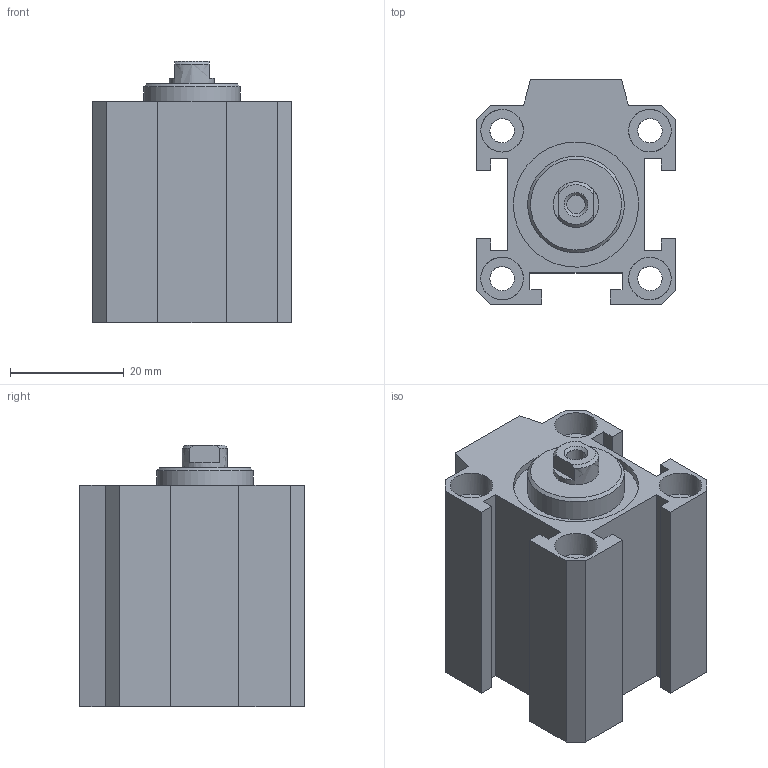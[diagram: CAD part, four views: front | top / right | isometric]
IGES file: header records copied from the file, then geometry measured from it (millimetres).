
Global section: file name: 1511_20_0005; native system: Autodesk Inventor 2014; preprocessor: unknown; author: A. Manieri; date: 20160824.110249; units: millimetre
Bounding box: 35 x 39.5 x 46 mm (x, y, z)
Volume: 35573.9 mm3; surface area: 17115.7 mm2
Topology: 2 solids, 2 shells, 91 faces, 233 edges, 164 vertices
Faces by surface type: bspline 91
